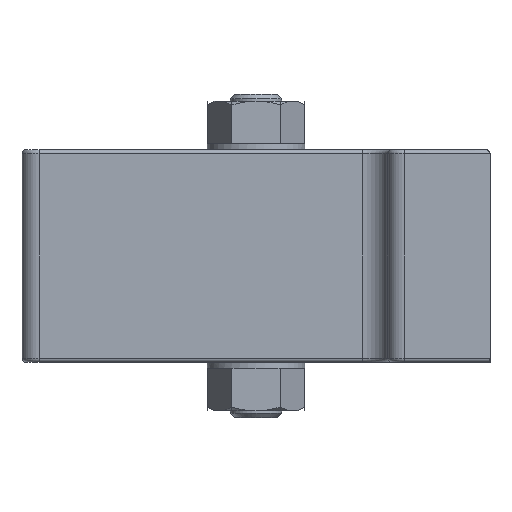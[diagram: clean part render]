
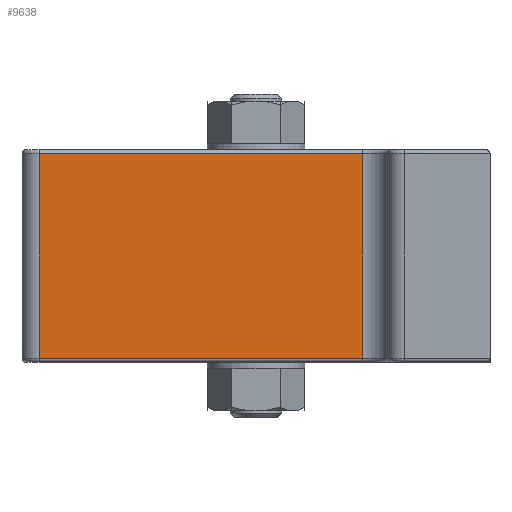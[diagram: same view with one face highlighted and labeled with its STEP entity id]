
A CAD part, left-side view. The second image highlights one B-rep face of the part: STEP entity #9638.
In plain terms, the highlighted planar face has unit normal (-1, 0, 0).
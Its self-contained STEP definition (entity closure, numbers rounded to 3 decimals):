
#9319=CARTESIAN_POINT('',(-27.5,25.5,-12.0));
#9320=VERTEX_POINT('',#9319);
#9385=CARTESIAN_POINT('',(-27.5,-12.5,-12.0));
#9386=VERTEX_POINT('',#9385);
#9394=CARTESIAN_POINT('',(-27.5,-12.5,-12.0));
#9395=DIRECTION('',(0.0,1.0,0.0));
#9396=VECTOR('',#9395,38.);
#9397=LINE('',#9394,#9396);
#9398=EDGE_CURVE('',#9386,#9320,#9397,.T.);
#9608=CARTESIAN_POINT('',(-27.5,-12.5,0.0));
#9609=DIRECTION('',(-1.0,0.0,0.0));
#9610=DIRECTION('',(0.0,0.0,1.0));
#9611=AXIS2_PLACEMENT_3D('',#9608,#9609,#9610);
#9612=PLANE('',#9611);
#9613=ORIENTED_EDGE('',*,*,#9398,.F.);
#9614=CARTESIAN_POINT('',(-27.5,-12.5,12.0));
#9615=VERTEX_POINT('',#9614);
#9616=CARTESIAN_POINT('',(-27.5,-12.5,12.0));
#9617=DIRECTION('',(0.0,0.0,-1.0));
#9618=VECTOR('',#9617,24.0);
#9619=LINE('',#9616,#9618);
#9620=EDGE_CURVE('',#9615,#9386,#9619,.T.);
#9621=ORIENTED_EDGE('',*,*,#9620,.F.);
#9622=CARTESIAN_POINT('',(-27.5,25.5,12.0));
#9623=VERTEX_POINT('',#9622);
#9624=CARTESIAN_POINT('',(-27.5,25.5,12.0));
#9625=DIRECTION('',(0.0,-1.0,0.0));
#9626=VECTOR('',#9625,38.);
#9627=LINE('',#9624,#9626);
#9628=EDGE_CURVE('',#9623,#9615,#9627,.T.);
#9629=ORIENTED_EDGE('',*,*,#9628,.F.);
#9630=CARTESIAN_POINT('',(-27.5,25.5,12.0));
#9631=DIRECTION('',(0.0,0.0,-1.0));
#9632=VECTOR('',#9631,24.0);
#9633=LINE('',#9630,#9632);
#9634=EDGE_CURVE('',#9623,#9320,#9633,.T.);
#9635=ORIENTED_EDGE('',*,*,#9634,.T.);
#9636=EDGE_LOOP('',(#9613,#9621,#9629,#9635));
#9637=FACE_OUTER_BOUND('',#9636,.T.);
#9638=ADVANCED_FACE('',(#9637),#9612,.T.);
